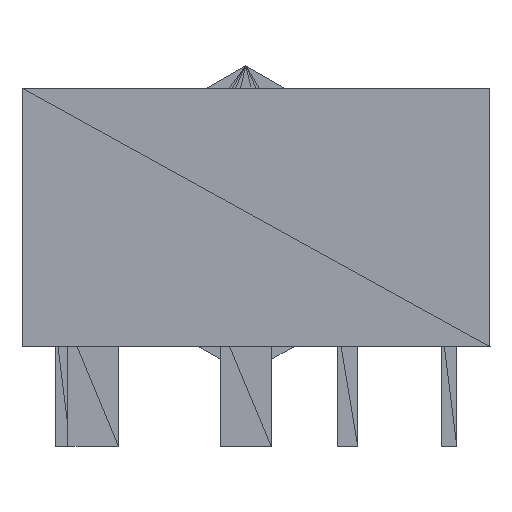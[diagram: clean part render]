
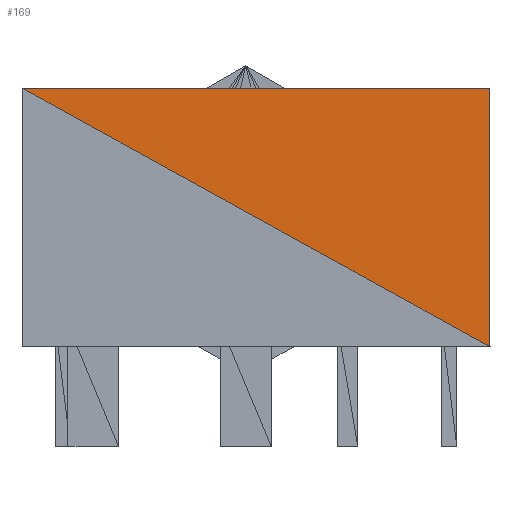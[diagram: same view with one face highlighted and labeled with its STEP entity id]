
A CAD part, front view. The second image highlights one B-rep face of the part: STEP entity #169.
In plain terms, the highlighted planar face has unit normal (0, -1, 0).
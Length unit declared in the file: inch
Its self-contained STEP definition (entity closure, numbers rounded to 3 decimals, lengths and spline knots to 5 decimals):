
#138=CARTESIAN_POINT('',(-0.22022,-0.55492,0.25201));
#139=DIRECTION('',(0.,-1.,0.));
#140=DIRECTION('',(1.,0.,0.));
#141=AXIS2_PLACEMENT_3D('',#138,#139,#140);
#142=PLANE('',#141);
#143=CARTESIAN_POINT('',(0.23997,-0.55508,-0.00188));
#144=VERTEX_POINT('',#143);
#145=CARTESIAN_POINT('',(-0.22009,-0.55492,0.25201));
#146=VERTEX_POINT('',#145);
#147=CARTESIAN_POINT('',(0.23997,-0.55508,-0.00188));
#148=DIRECTION('',(-0.876,0.,0.483));
#149=VECTOR('',#148,0.52547);
#150=LINE('',#147,#149);
#151=EDGE_CURVE('',#144,#146,#150,.T.);
#152=ORIENTED_EDGE('',*,*,#151,.F.);
#153=CARTESIAN_POINT('',(0.23991,-0.55502,0.25212));
#154=VERTEX_POINT('',#153);
#155=CARTESIAN_POINT('',(0.23997,-0.55508,-0.00188));
#156=DIRECTION('',(0.,0.,1.));
#157=VECTOR('',#156,0.254);
#158=LINE('',#155,#157);
#159=EDGE_CURVE('',#144,#154,#158,.T.);
#160=ORIENTED_EDGE('',*,*,#159,.T.);
#161=CARTESIAN_POINT('',(-0.22009,-0.55492,0.25201));
#162=DIRECTION('',(1.,0.,0.));
#163=VECTOR('',#162,0.46);
#164=LINE('',#161,#163);
#165=EDGE_CURVE('',#146,#154,#164,.T.);
#166=ORIENTED_EDGE('',*,*,#165,.F.);
#167=EDGE_LOOP('',(#152,#160,#166));
#168=FACE_BOUND('',#167,.T.);
#169=ADVANCED_FACE('',(#168),#142,.T.);
